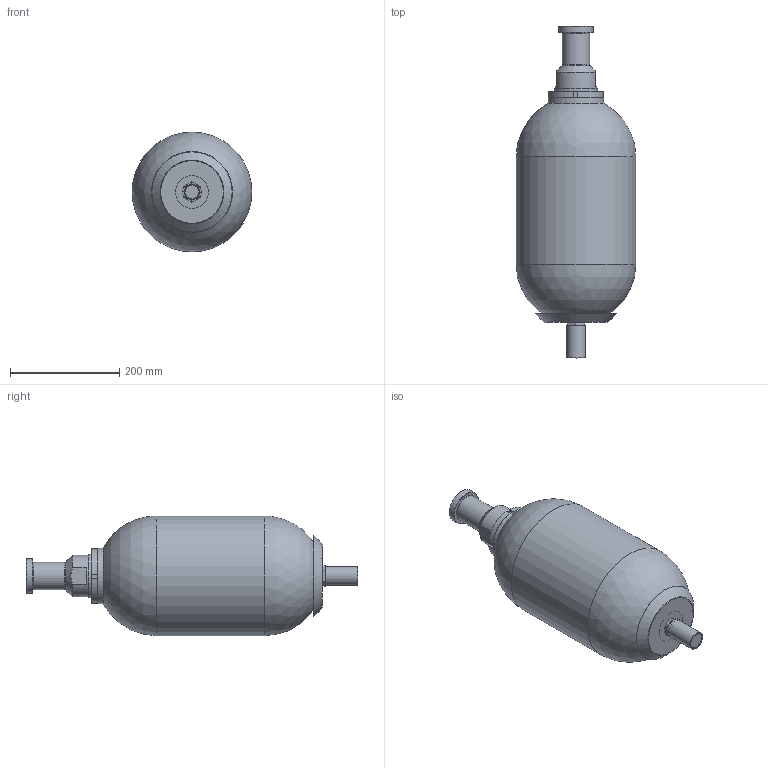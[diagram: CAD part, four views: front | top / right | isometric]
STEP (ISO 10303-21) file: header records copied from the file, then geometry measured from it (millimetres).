
FILE_DESCRIPTION((''),'2;1');
FILE_NAME('F:\STEP\ALLEGE\GAMME_EHVF_350&330&250bar\EHVF_10_330_90.stp','2011-03-04T10:21:25',('laurent.simeon'),(''),'Autodesk Inventor 2011','Autodesk Inventor 2011','');
FILE_SCHEMA(('AUTOMOTIVE_DESIGN { 1 0 10303 214 1 1 1 1 }'));
Length unit declared in the file: millimetre
Products named in the file (39): EHVF_10_330_90; CA108360-00190; EC102958-00200; BP102851-00200; BOUCHON DE PROTECTION; BOUCHON PLASTIQUE; VA108479-01626; VA108473-01626; VA108439-01600; VA108437-01600; PI108438-01600; RE100758-01200; JT104172-00023; JP102452-00026; ET106134-02600; BOUCHON DE VALVE; BO100759-02600; JP101164-00020; JOINT PLAT; PF108368-05200; BC110335-00220; BE105544-00200; EC100990-00200; BM110333-00200; CB110083-00200
Assembly tree (38 placements, depth 5):
  EHVF_10_330_90
    CA108360-00190
      CA108360-00190
    EC102958-00200
      EC102958-00200
    BP102851-00200
      BOUCHON DE PROTECTION
      BOUCHON PLASTIQUE
    VA108479-01626
      VA108473-01626
        VA108439-01600
          VA108439-01600
        VA108437-01600
          VA108437-01600
        PI108438-01600
          PI108438-01600
        RE100758-01200
          RE100758-01200
        JT104172-00023
          JT104172-00023
        JP102452-00026
          JP102452-00026
        ET106134-02600
          ET106134-02600
      BOUCHON DE VALVE
        BO100759-02600
          BO100759-02600
        JP101164-00020
          JOINT PLAT
    PF108368-05200
      PF108368-05200
    BC110335-00220
      BE105544-00200
        BE105544-00200
      EC100990-00200
        EC100990-00200
    BM110333-00200
      CB110083-00200
        CB110083-00200
Bounding box: 219.1 x 607.2 x 219.1 mm (x, y, z)
Volume: 3127096.8 mm3; surface area: 698469.4 mm2
Topology: 23 solids, 23 shells, 682 faces, 1625 edges, 995 vertices
Faces by surface type: bspline 207, cylinder 186, plane 150, cone 79, torus 56, sphere 4
Full cylindrical faces by diameter (mm): 0.8 x1, 1.7 x1, 2 x1, 2.2 x1, 3.8 x1, 3.9 x1, 4.6 x1, 6.2 x1, 6.5 x1, 9 x3, 10 x1, 11.1 x1, 11.33 x1, 12 x1, 12.667 x1, 13 x8, 14.46 x1, 15.83 x1, 16 x2, 18 x1, 20 x1, 20.68 x1, 22 x1, 22.5 x1, 25 x1, 28.5 x2, 29.5 x1, 30.05 x1, 31 x1, 33.6 x1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
Entity records: 30076 total; most frequent: CARTESIAN_POINT 15332, ORIENTED_EDGE 2870, DIRECTION 2586, EDGE_CURVE 1435, AXIS2_PLACEMENT_3D 1137, VERTEX_POINT 937, EDGE_LOOP 894, FACE_OUTER_BOUND 681
